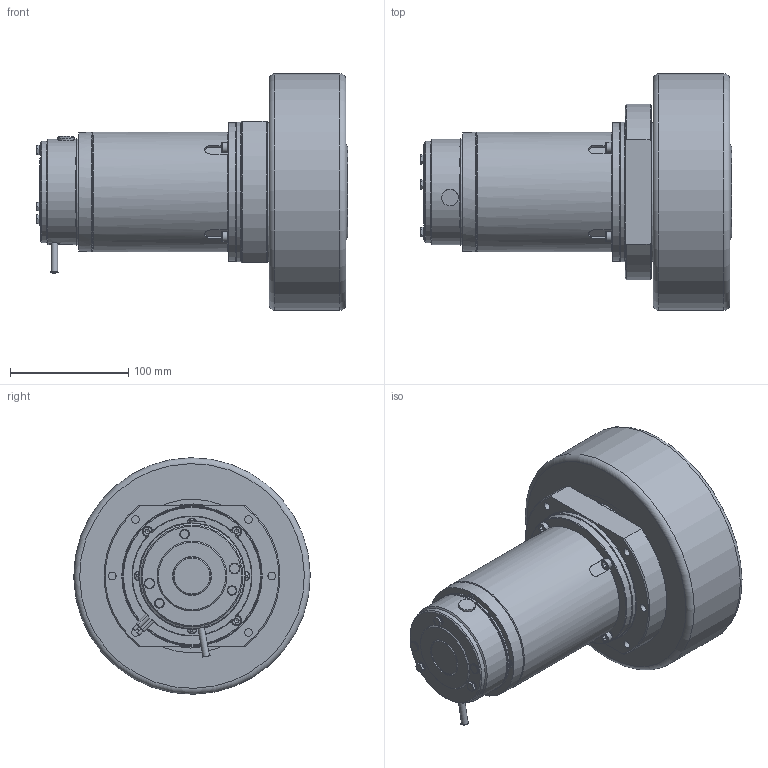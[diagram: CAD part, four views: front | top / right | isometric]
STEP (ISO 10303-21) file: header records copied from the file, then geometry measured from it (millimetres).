
FILE_DESCRIPTION(/* description */ (''),/* implementation_level */ '2;1');
FILE_NAME(/* name */ 'Z:\SITO WEB 2023\Dual Drive\MRH116\MRH116 DC D.200 mm\MRH116.DC.D200.stp',/* time_stamp */ '2023-09-21T14:17:22+02:00',/* author */ ('cad3'),/* organization */ (''),/* preprocessor_version */ 'ST-DEVELOPER v18.1',/* originating_system */ 'Autodesk Inventor 2022',/* authorisation */ '');
FILE_SCHEMA (('AUTOMOTIVE_DESIGN { 1 0 10303 214 3 1 1 }'));
Products named in the file (1): MRH116.DC.D200
Bounding box: 263.3 x 199.98 x 199.98 mm (x, y, z)
Volume: 2480183.1 mm3; surface area: 420127.6 mm2
Topology: 5 solids, 19 shells, 4580 faces, 12573 edges, 7918 vertices
Faces by surface type: plane 3187, cylinder 763, cone 335, torus 145, bspline 121, sphere 29
Full cylindrical faces by diameter (mm): 1.7 x2, 2 x2, 3 x2, 3.3 x4, 3.5 x2, 4 x13, 4.134 x4, 4.2 x11, 4.3 x3, 4.917 x9, 5 x4, 5.2 x10, 5.3 x4, 5.5 x5, 5.88 x3, 5.917 x3, 6 x9, 6.5 x16, 6.647 x6, 8 x14, 8.4 x5, 8.5 x8, 9 x5, 10 x16, 10.5 x10, 10.8 x1, 11 x3, 11.8 x1, 12 x3, 12.5 x1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
Entity records: 158863 total; most frequent: CARTESIAN_POINT 36634, ORIENTED_EDGE 25060, DIRECTION 24915, EDGE_CURVE 12530, AXIS2_PLACEMENT_3D 8819, VERTEX_POINT 7917, LINE 7277, VECTOR 7277
